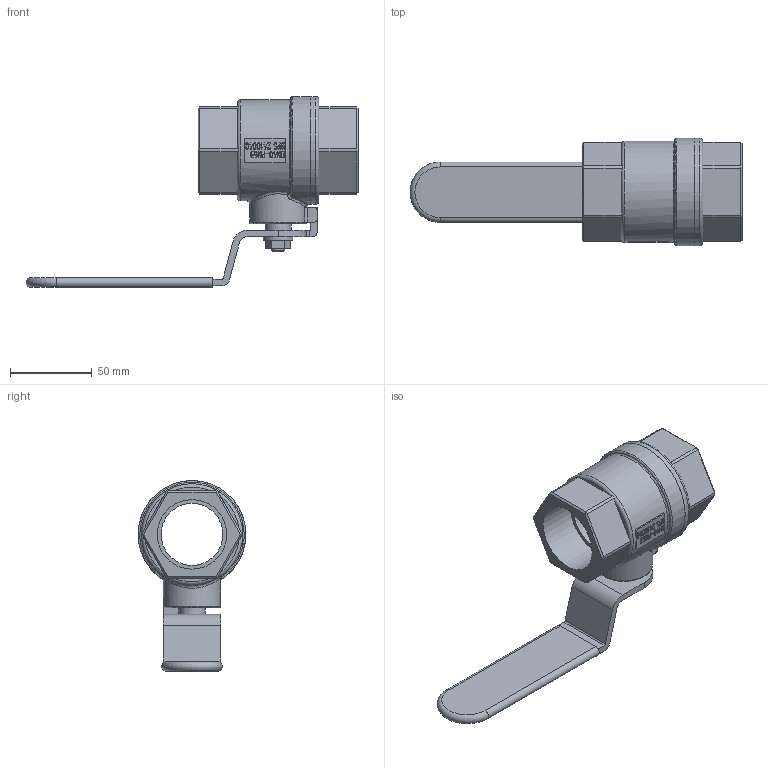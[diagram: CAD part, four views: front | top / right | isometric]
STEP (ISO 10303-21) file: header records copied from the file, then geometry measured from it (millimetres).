
FILE_DESCRIPTION( ( 'Unknown' ), '1' );
FILE_NAME( 'C:/Documents and Settings/Klaus/My Documents/Rootsi BPS 3D, Klaus/BPS 2410 ball valve, 2-pcs/STEP/BPS2410040 ball valve DN40.stp', 'Unknown', ( 'Unknown' ), ( 'Unknown' ), 'PSStep 10.1', 'Unknown', ' ' );
FILE_SCHEMA( ( 'AUTOMOTIVE_DESIGN { 1 0 10303 214 1 1 1 1 }' ) );
Length unit declared in the file: millimetre
Products named in the file (2): 1; 2
Bounding box: 203.5 x 66 x 117 mm (x, y, z)
Volume: 203381.8 mm3; surface area: 57574.9 mm2
Topology: 2 solids, 2 shells, 313 faces, 762 edges, 490 vertices
Faces by surface type: plane 230, extrusion 44, cylinder 24, bspline 8, torus 6, cone 1
Full cylindrical faces by diameter (mm): 8 x1, 16 x1, 18 x1, 35 x1, 38 x2, 42.587 x2, 62 x1, 66 x2
Entity records: 15117 total; most frequent: CARTESIAN_POINT 6003, ORIENTED_EDGE 1460, DIRECTION 1043, EDGE_CURVE 730, VERTEX_POINT 483, EDGE_LOOP 379, VECTOR 375, B_SPLINE_CURVE_WITH_KNOTS 372
